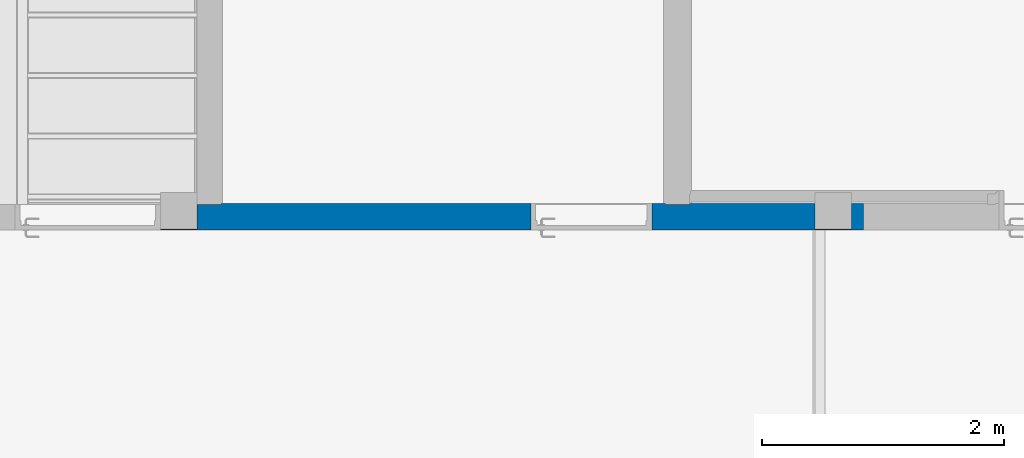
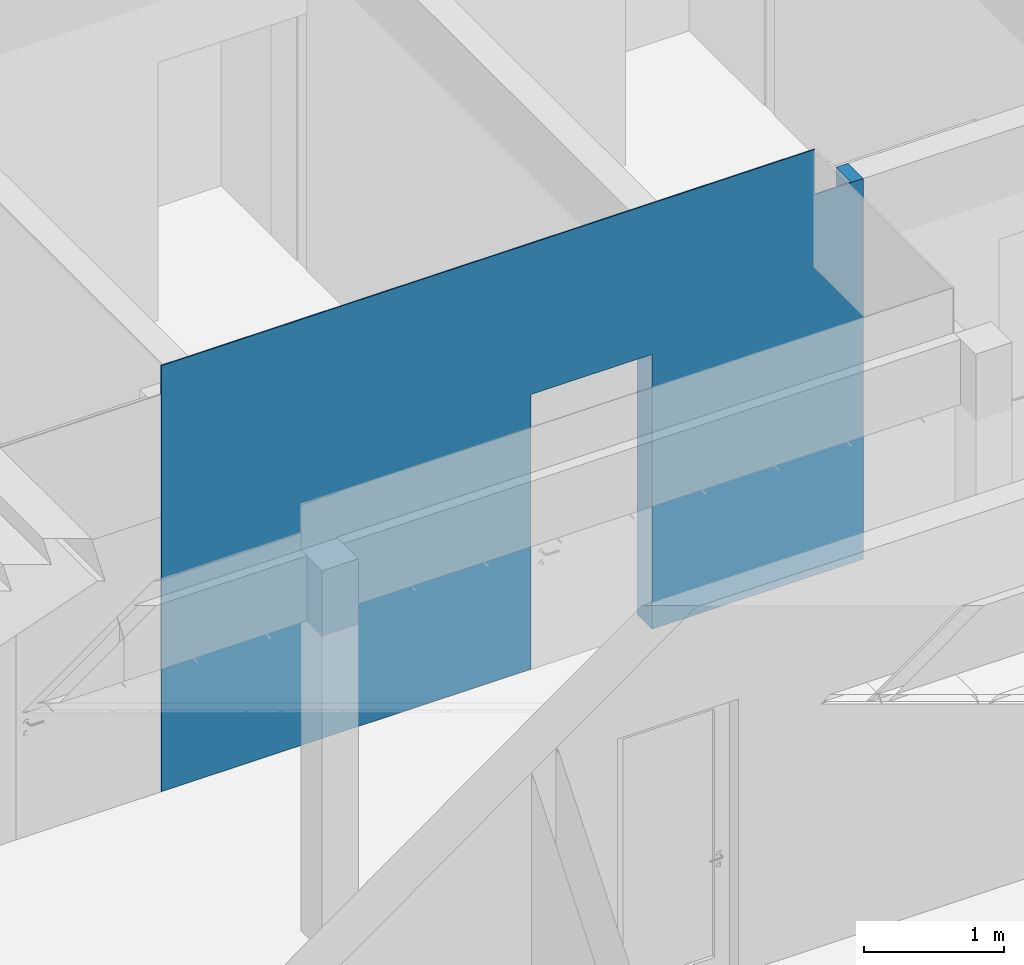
# One storey, part 110 of 246: 1 wall, 1 opening.
"""IFC2X3 building model written with IfcOpenShell, lengths in millimetres."""

import ifcopenshell
import ifcopenshell.guid

model = None  # the IFC model being written
_history = None  # IfcOwnerHistory: only IFC2X3 demands one
_inside = {}  # id of a spatial element -> (the spatial element, [elements in it])
_under = {}  # id of a project, library or spatial element -> (it, [spatial elements below it])
_declared = {}  # id of a project -> (the project, [libraries it declares])
_typed = {}  # id of a type object -> (the type object, [elements of that type])
_made_of = {}  # id of a material, layer set ... -> (it, [elements and type objects made of it])


def new_model(schema):
    """Start an empty IFC model of exactly this schema.

    Asked for "IFC4X3", IfcOpenShell would pick the latest addendum, in which some entities
    have other attributes; the version numbers below select the first issue.
    IFC2X3 requires an IfcOwnerHistory on every rooted entity: one is made here for all.
    """
    global model, _history
    if schema == "IFC4X3":
        model = ifcopenshell.file(schema_version=(4, 3, 0, 0))
    else:
        model = ifcopenshell.file(schema=schema)
    _inside.clear()
    _under.clear()
    _declared.clear()
    _typed.clear()
    _made_of.clear()
    _history = None
    if model.schema == "IFC2X3":
        org = make("IfcOrganization", Name="unknown")
        user = make(
            "IfcPersonAndOrganization",
            ThePerson=make("IfcPerson", FamilyName="unknown"),
            TheOrganization=org,
        )
        app = make(
            "IfcApplication",
            ApplicationDeveloper=org,
            Version="unknown",
            ApplicationFullName="unknown",
            ApplicationIdentifier="unknown",
        )
        _history = make(
            "IfcOwnerHistory",
            OwningUser=user,
            OwningApplication=app,
            ChangeAction="ADDED",
            CreationDate=0,
        )
    return model


def make(cls, **values):
    """One entity of the class cls with the attributes given. An attribute that is None is left unset."""
    return model.create_entity(
        cls, **{name: value for name, value in values.items() if value is not None}
    )


def entity(cls, *values):
    """Any entity or typed value of the class cls, its attributes in the order of the schema. None: left unset."""
    e = model.create_entity(cls)
    for i, value in enumerate(values):
        if value is not None:
            e[i] = value
    return e


def rooted(cls, **values):
    """An entity with a GlobalId (a new one), such as an element, a storey or a relation."""
    return make(cls, GlobalId=ifcopenshell.guid.new(), OwnerHistory=_history, **values)


def si_unit(unit_type, name, prefix=None):
    """IfcSIUnit, for example si_unit("LENGTHUNIT", "METRE", prefix="MILLI")."""
    return make("IfcSIUnit", UnitType=unit_type, Prefix=prefix, Name=name)


def converted_unit(unit_type, name, factor, base, dimensions=None, offset=None):
    """IfcConversionBasedUnit, such as the inch: factor (a typed value) times the base unit."""
    return make(
        "IfcConversionBasedUnit"
        if offset is None
        else "IfcConversionBasedUnitWithOffset",
        ConversionOffset=offset,
        Dimensions=None
        if dimensions is None
        else entity("IfcDimensionalExponents", *dimensions),
        UnitType=unit_type,
        Name=name,
        ConversionFactor=make(
            "IfcMeasureWithUnit", ValueComponent=factor, UnitComponent=base
        ),
    )


def derived_unit(unit_type, elements):
    """IfcDerivedUnit: a product of units, each with its exponent."""
    return make(
        "IfcDerivedUnit",
        Elements=[
            make("IfcDerivedUnitElement", Unit=unit, Exponent=power)
            for unit, power in elements
        ],
        UnitType=unit_type,
    )


def money_unit(currency):
    """IfcMonetaryUnit."""
    return make("IfcMonetaryUnit", Currency=currency)


def assignment(units):
    """IfcUnitAssignment: the units of a project."""
    return None if units is None else make("IfcUnitAssignment", Units=units)


def point(xyz):
    """IfcCartesianPoint."""
    return None if xyz is None else make("IfcCartesianPoint", Coordinates=xyz)


def direction(xyz):
    """IfcDirection."""
    return None if xyz is None else make("IfcDirection", DirectionRatios=xyz)


def frame(location, z_axis=None, x_axis=None):
    """IfcAxis2Placement3D, a coordinate frame: its origin and axes. An axis left out is left unset."""
    return make(
        "IfcAxis2Placement3D",
        Location=point(location),
        Axis=direction(z_axis),
        RefDirection=direction(x_axis),
    )


def origin_with_axes():
    """The frame at (0, 0, 0) with the z axis (0, 0, 1) and the x axis (1, 0, 0) written out."""
    return frame((0.0, 0.0, 0.0), z_axis=(0.0, 0.0, 1.0), x_axis=(1.0, 0.0, 0.0))


def place(relative_to, where):
    """IfcLocalPlacement: puts the frame where relative to a parent placement (None: the world)."""
    return make(
        "IfcLocalPlacement", PlacementRelTo=relative_to, RelativePlacement=where
    )


def context(
    kind, dimensions, precision=None, world=None, true_north=None, identifier=None
):
    """IfcGeometricRepresentationContext, for example the 3D "Model" context."""
    return make(
        "IfcGeometricRepresentationContext",
        ContextIdentifier=identifier,
        ContextType=kind,
        CoordinateSpaceDimension=dimensions,
        Precision=precision,
        WorldCoordinateSystem=world,
        TrueNorth=true_north,
    )


def subcontext(parent, identifier, kind, view, scale=None):
    """IfcGeometricRepresentationSubContext, for example "Body" below "Model"."""
    return make(
        "IfcGeometricRepresentationSubContext",
        ContextIdentifier=identifier,
        ContextType=kind,
        ParentContext=parent,
        TargetScale=scale,
        TargetView=view,
    )


def project(units=None, contexts=None):
    """IfcProject with its units and contexts."""
    return rooted(
        "IfcProject",
        Name="project",
        RepresentationContexts=contexts,
        UnitsInContext=assignment(units),
    )


def spatial(cls, under=None, at=None, **own):
    """A site, building, storey or space (cls), placed at a placement, below another one or the project."""
    s = rooted(cls, ObjectPlacement=at, **own)
    if under is not None:
        _under.setdefault(under.id(), (under, []))[1].append(s)
    return s


def faces_of(points, faces, orient=None, outer=None):
    """IfcFace entities. A face is a list of loops; a loop is a list of indices into points, from 0.

    orient and outer hold one flag for each loop. By default every Orientation is true, the
    first loop of a face is its IfcFaceOuterBound and the others are IfcFaceBound.
    """
    made = []
    for i, loops in enumerate(faces):
        bounds = []
        for j, loop in enumerate(loops):
            is_outer = j == 0 if outer is None else outer[i][j]
            bounds.append(
                make(
                    "IfcFaceOuterBound" if is_outer else "IfcFaceBound",
                    Bound=make("IfcPolyLoop", Polygon=[points[k] for k in loop]),
                    Orientation=True if orient is None else orient[i][j],
                )
            )
        made.append(make("IfcFace", Bounds=bounds))
    return made


def faceted_brep(points, faces, orient=None, outer=None, voids=None):
    """IfcFacetedBrep: a solid bounded by flat faces; with voids (closed shells), ...WithVoids."""
    shared = [point(p) for p in points]
    hull = make("IfcClosedShell", CfsFaces=faces_of(shared, faces, orient, outer))
    if voids is None:
        return make("IfcFacetedBrep", Outer=hull)
    return make(
        "IfcFacetedBrepWithVoids",
        Outer=hull,
        Voids=[
            make(cls, CfsFaces=faces_of(shared, fs, o, b)) for cls, fs, o, b in voids
        ],
    )


def shape(context_of_items, identifier, shape_type, items):
    """IfcShapeRepresentation: the items that make up one representation, for example the "Body"."""
    return make(
        "IfcShapeRepresentation",
        ContextOfItems=context_of_items,
        RepresentationIdentifier=identifier,
        RepresentationType=shape_type,
        Items=items,
    )


def material(Name=None, Category=None):
    """IfcMaterial."""
    return make("IfcMaterial", Name=Name, Category=Category)


def material_list(materials):
    """IfcMaterialList."""
    return make("IfcMaterialList", Materials=materials)


def made_of(thing, what):
    """Note that an element or type object is made of a material, layer set ...; save() writes the relation."""
    if what is not None:
        _made_of.setdefault(what.id(), (what, []))[1].append(thing)
    return thing


def type_object(cls, material=None, **own):
    """A type object (cls), such as IfcWallType, which elements share."""
    return made_of(rooted(cls, **own), material)


def element(
    cls,
    number,
    at=None,
    inside=None,
    cuts=None,
    type_object=None,
    material=None,
    context=None,
    identifier="Body",
    shape_type=None,
    held_by="IfcProductDefinitionShape",
    body=None,
    shapes=None,
    **own,
):
    """One element of the class cls, such as IfcWall. Its Tag is "e" and its number.

    at: its placement. inside: the storey or other place that contains it. cuts: it is an
    opening in that element (IfcRelVoidsElement). A single representation is given by context,
    identifier, shape_type and body (its items); several are given by shapes. held_by: the class
    of the entity that holds the representations. save() writes the other relations.
    """
    e = rooted(cls, Tag="e%d" % number, ObjectPlacement=at, **own)
    if body is not None:
        shapes = [shape(context, identifier, shape_type, body)]
    if shapes is not None:
        e.Representation = make(held_by, Representations=shapes)
    if inside is not None:
        _inside.setdefault(inside.id(), (inside, []))[1].append(e)
    if cuts is not None:
        rooted(
            "IfcRelVoidsElement", RelatingBuildingElement=cuts, RelatedOpeningElement=e
        )
    if type_object is not None:
        _typed.setdefault(type_object.id(), (type_object, []))[1].append(e)
    return made_of(e, material)


def aggregate(whole, parts):
    """IfcRelAggregates: a whole, such as a stair, and the parts it consists of."""
    return rooted("IfcRelAggregates", RelatingObject=whole, RelatedObjects=parts)


def save(model, path):
    """Write the relations noted so far, then the file.

    IfcRelAggregates (storeys below a building ...), IfcRelContainedInSpatialStructure (elements
    in a storey), IfcRelDefinesByType, IfcRelAssociatesMaterial and IfcRelDeclares: one each for
    every whole, place, type object, material and project.
    """
    for whole, parts in _under.values():
        aggregate(whole, parts)
    for where, things in _inside.values():
        rooted(
            "IfcRelContainedInSpatialStructure",
            RelatedElements=things,
            RelatingStructure=where,
        )
    for kind, things in _typed.values():
        rooted("IfcRelDefinesByType", RelatedObjects=things, RelatingType=kind)
    for what, things in _made_of.values():
        rooted("IfcRelAssociatesMaterial", RelatedObjects=things, RelatingMaterial=what)
    for by, libraries in _declared.values():
        rooted("IfcRelDeclares", RelatingContext=by, RelatedDefinitions=libraries)
    model.write(path)


model = new_model("IFC2X3")

# Units and contexts
model_context = context("Model", 3, precision=0.01, world=origin_with_axes(), true_north=direction((0.0, 1.0)))
body_context = subcontext(model_context, "Body", "Model", "MODEL_VIEW")
ifc_project = project(units=[si_unit("LENGTHUNIT", "METRE", prefix="MILLI"), si_unit("AREAUNIT", "SQUARE_METRE"), si_unit("VOLUMEUNIT", "CUBIC_METRE"), converted_unit("PLANEANGLEUNIT", "DEGREE", entity("IfcPlaneAngleMeasure", 0.0174532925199), si_unit("PLANEANGLEUNIT", "RADIAN"), dimensions=[0, 0, 0, 0, 0, 0, 0]), si_unit("SOLIDANGLEUNIT", "STERADIAN"), money_unit("EUR"), converted_unit("TIMEUNIT", "Year", entity("IfcTimeMeasure", 31556926.0), si_unit("TIMEUNIT", "SECOND"), dimensions=[0, 0, 1, 0, 0, 0, 0]), si_unit("MASSUNIT", "GRAM", prefix="KILO"), si_unit("THERMODYNAMICTEMPERATUREUNIT", "DEGREE_CELSIUS"), si_unit("LUMINOUSINTENSITYUNIT", "LUMEN"), si_unit("ENERGYUNIT", "JOULE", prefix="MEGA"), derived_unit("THERMALCONDUCTANCEUNIT", [(si_unit("POWERUNIT", "WATT"), 1), (si_unit("LENGTHUNIT", "METRE"), -1), (si_unit("THERMODYNAMICTEMPERATUREUNIT", "KELVIN"), -1)]), derived_unit("SPECIFICHEATCAPACITYUNIT", [(si_unit("ENERGYUNIT", "JOULE"), 1), (si_unit("MASSUNIT", "GRAM", prefix="KILO"), -1), (si_unit("THERMODYNAMICTEMPERATUREUNIT", "KELVIN"), -1)]), derived_unit("MASSDENSITYUNIT", [(si_unit("MASSUNIT", "GRAM", prefix="KILO"), 1), (si_unit("VOLUMEUNIT", "CUBIC_METRE"), -1)])], contexts=[model_context])

# Site, building, storey
site_placement = place(None, origin_with_axes())
site = spatial("IfcSite", under=ifc_project, at=site_placement, Name="L.Koidula tn 11b", CompositionType="ELEMENT")
building_placement = place(site_placement, origin_with_axes())
building = spatial("IfcBuilding", under=site, at=building_placement, Name="Rakvere Riigigümnaasium", CompositionType="ELEMENT")
storey_placement = place(building_placement, origin_with_axes())
storey = spatial("IfcBuildingStorey", under=building, at=storey_placement, Name="1.korrus 0,00", CompositionType="ELEMENT", Elevation=0.0)

# Wall, opening
ifc_material_1 = material(Name="siseviimistlus-seinad")
ifc_material_2 = material(Name="Betoon element / plaat")
ifc_material_list = material_list([ifc_material_1, ifc_material_2, ifc_material_1])
wall_type = type_object("IfcWallType", Name="SS-01-2 220", PredefinedType="NOTDEFINED")
wall_placement = place(storey_placement, frame((71400.0000864, 17110.4555225, 0.0), z_axis=(0.0, 0.0, 1.0), x_axis=(-1.0, 0.0, 0.0)))
wall = element("IfcWall", 1, at=wall_placement, inside=storey, type_object=wall_type, material=ifc_material_list, Name="Sisesein", context=body_context, shape_type="Brep", body=[
    faceted_brep([(2745.01275675, 3.68409267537e-05, 2400.0), (2745.01275675, 0.0, 0.0), (5800.00204938, 0.0, 0.0), (5800.00204938, 0.0, 3720.0), (400.002013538, 3.68409267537e-05, 3720.0), (400.002013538, 3.68409267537e-05, 3325.0), (0.0, 3.68409267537e-05, 3325.0), (0.0, 0.0, 0.0), (1745.01275663, 0.0, 0.0), (1745.01275663, 3.68409267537e-05, 2400.0), (2745.01275675, 10.0, 2400.0), (2745.01275675, 10.0, 0.0), (5800.00204938, 10.0, 0.0), (5800.00204938, 10.0, 3720.0), (400.002013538, 10.0, 3720.0), (400.002013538, 10.0, 3325.0), (0.0, 10.0, 3325.0), (0.0, 10.0, 0.0), (1745.01275663, 10.0, 0.0), (1745.01275663, 10.0, 2400.0)], [[[0, 1, 2, 3, 4, 5, 6, 7, 8, 9]], [[1, 0, 10, 11]], [[1, 11, 12, 2]], [[13, 3, 2, 12]], [[14, 4, 3, 13]], [[15, 5, 4, 14]], [[16, 6, 5, 15]], [[6, 16, 17, 7]], [[18, 8, 7, 17]], [[9, 8, 18, 19]], [[0, 9, 19, 10]], [[19, 18, 17, 16, 15, 14, 13, 12, 11, 10]]]),
    faceted_brep([(1745.01275663, -70.0, 0.0), (1745.01275663, 6.60804744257e-10, 0.0), (1745.01275663, 6.60804744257e-10, 2400.0), (1745.01275663, -200.0, 2400.0), (1745.01275663, -200.0, 0.0), (400.002013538, -200.0, 0.0), (400.002013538, 6.60804744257e-10, 0.0), (400.002013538, 6.60804744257e-10, 3325.0), (5500.00208387, 6.60804744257e-10, 3325.0), (5500.00208387, 6.60804744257e-10, 0.0), (2745.01275675, 6.60804744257e-10, 0.0), (2745.01275675, 6.60804744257e-10, 2400.0), (2745.01275675, -200.0, 2400.0), (2745.01275675, -200.0, 0.0), (5500.00208387, -200.0, 0.0), (5500.00208387, -200.0, 3325.0), (400.002013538, -200.0, 3325.0), (2745.01275675, -70.0, 0.0)], [[[0, 1, 2, 3, 4]], [[1, 0, 4, 5, 6]], [[2, 1, 6, 7, 8, 9, 10, 11]], [[3, 2, 11, 12]], [[5, 4, 3, 12, 13, 14, 15, 16]], [[7, 6, 5, 16]], [[15, 8, 7, 16]], [[14, 9, 8, 15]], [[17, 10, 9, 14, 13]], [[11, 10, 17, 13, 12]]]),
    faceted_brep([(100.002013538, -200.0, 0.0), (100.002013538, -200.0, 3325.0), (0.0, -200.0, 3325.0), (0.0, -200.0, 0.0), (100.002013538, 6.60804744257e-10, 3325.0), (100.002013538, 6.60804744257e-10, 0.0), (0.0, 1.77197385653e-05, 3325.0), (0.0, 0.0, 0.0)], [[[0, 1, 2, 3]], [[4, 1, 0, 5]], [[1, 4, 6, 2]], [[3, 2, 6, 7]], [[5, 0, 3, 7]], [[4, 5, 7, 6]]]),
    faceted_brep([(400.002013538, -200.0, 3325.0), (400.002013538, -210.0, 3325.0), (1435.01275663, -210.0, 3325.0), (1435.01275663, -200.0, 3325.0), (400.002013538, -210.0, 0.0), (400.002013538, -200.0, 0.0), (1435.01275663, -210.0, 0.0), (1435.01275663, -200.0, 0.0)], [[[0, 1, 2, 3]], [[4, 1, 0, 5]], [[1, 4, 6, 2]], [[7, 3, 2, 6]], [[5, 0, 3, 7]], [[4, 5, 7, 6]]]),
    faceted_brep([(2745.01275675, -210.0, 2400.0), (2745.01275675, -210.0, 0.0), (5300.00201354, -210.0, 0.0), (5300.00201354, -210.0, 3325.0), (1635.01275663, -210.0, 3325.0), (1635.01275663, -210.0, 0.0), (1745.01275663, -210.0, 0.0), (1745.01275663, -210.0, 2400.0), (2745.01275675, -200.0, 2400.0), (2745.01275675, -200.0, 0.0), (5300.00201354, -200.0, 0.0), (5300.00201354, -200.0, 3325.0), (1635.01275663, -200.0, 3325.0), (1635.01275663, -200.0, 0.0), (1745.01275663, -200.0, 0.0), (1745.01275663, -200.0, 2400.0)], [[[0, 1, 2, 3, 4, 5, 6, 7]], [[1, 0, 8, 9]], [[1, 9, 10, 2]], [[11, 3, 2, 10]], [[12, 4, 3, 11]], [[4, 12, 13, 5]], [[14, 6, 5, 13]], [[7, 6, 14, 15]], [[0, 7, 15, 8]], [[15, 14, 13, 12, 11, 10, 9, 8]]]),
    faceted_brep([(100.002013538, -210.0, 0.0), (100.002013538, -210.0, 3325.0), (0.0, -210.0, 3325.0), (0.0, -210.0, 0.0), (100.002013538, -200.0, 3325.0), (100.002013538, -200.0, 0.0), (0.0, -200.0, 3325.0), (0.0, -200.0, 0.0)], [[[0, 1, 2, 3]], [[4, 1, 0, 5]], [[1, 4, 6, 2]], [[3, 2, 6, 7]], [[5, 0, 3, 7]], [[4, 5, 7, 6]]]),
])
opening_placement = place(wall_placement, frame((2245.01275669, 0.0, 0.0), z_axis=(0.0, 0.0, 1.0), x_axis=(1.0, 0.0, 0.0)))
element("IfcOpeningElement", 2, at=opening_placement, cuts=wall, Name="SU-041", context=body_context, shape_type="Brep", body=[
    faceted_brep([(-500.000000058, -70.0, 2400.0), (-500.000000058, -70.0, 0.0), (-500.000000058, -430.0, 0.0), (-500.000000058, -430.0, 2400.0), (500.000000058, -70.0, 2400.0), (500.000000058, -70.0, 0.0), (500.000000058, -430.0, 0.0), (500.000000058, -430.0, 2400.0)], [[[0, 1, 2, 3]], [[0, 4, 5, 1]], [[1, 5, 6, 2]], [[3, 2, 6, 7]], [[4, 0, 3, 7]], [[5, 4, 7, 6]]]),
    faceted_brep([(-500.000000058, -70.0, 0.0), (-500.000000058, -70.0, 2400.0), (-500.000000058, 230.0, 2400.0), (-500.000000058, 230.0, 0.0), (500.000000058, -70.0, 0.0), (500.000000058, -70.0, 2400.0), (500.000000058, 230.0, 2400.0), (500.000000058, 230.0, 0.0)], [[[0, 1, 2, 3]], [[0, 4, 5, 1]], [[1, 5, 6, 2]], [[3, 2, 6, 7]], [[4, 0, 3, 7]], [[5, 4, 7, 6]]]),
])

save(model, "model.ifc")
